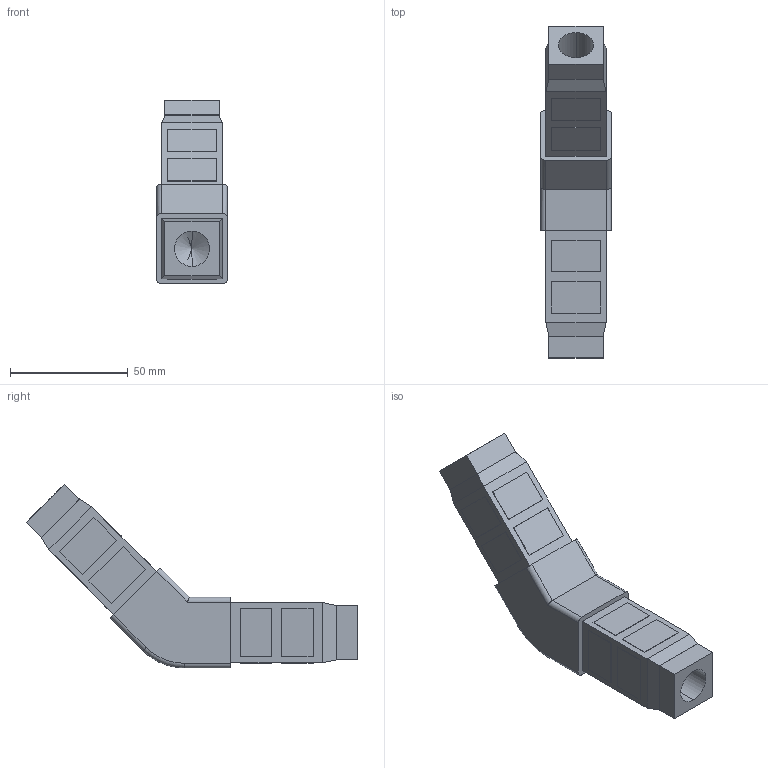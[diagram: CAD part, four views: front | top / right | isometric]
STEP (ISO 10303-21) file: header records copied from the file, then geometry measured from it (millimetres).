
FILE_DESCRIPTION (( 'STEP AP203' ), '1' );
FILE_NAME ('F030145.STEP', '2017-03-22T12:49:44', ( 'Localadmin' ), ( 'Microsoft' ), 'SwSTEP 2.0', 'SolidWorks 2016', '' );
FILE_SCHEMA (( 'CONFIG_CONTROL_DESIGN' ));
Length unit declared in the file: millimetre
Products named in the file (1): F030145
Bounding box: 30 x 140.92 x 78.14 mm (x, y, z)
Volume: 88970.4 mm3; surface area: 49162 mm2
Topology: 2 solids, 2 shells, 139 faces, 333 edges, 214 vertices
Faces by surface type: plane 120, cylinder 13, cone 4, torus 2
Entity records: 3998 total; most frequent: CARTESIAN_POINT 689, ORIENTED_EDGE 658, DIRECTION 631, EDGE_CURVE 329, LINE 303, VECTOR 303, VERTEX_POINT 214, AXIS2_PLACEMENT_3D 164
